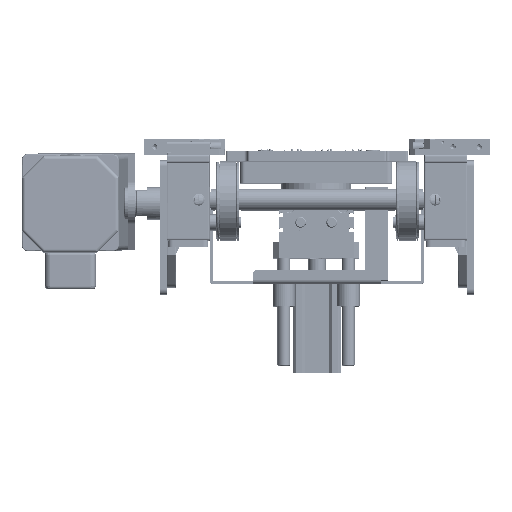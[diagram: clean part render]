
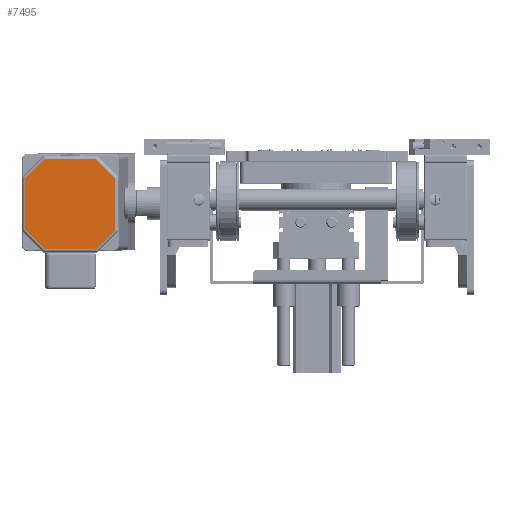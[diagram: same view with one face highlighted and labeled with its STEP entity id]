
A CAD part, top view. The second image highlights one B-rep face of the part: STEP entity #7495.
In plain terms, the highlighted planar face has unit normal (0, -0.012, 1) as drawn and (0, 0, 1) by its records, which use the part's own axes.
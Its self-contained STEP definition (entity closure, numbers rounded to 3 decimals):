
#5546=PLANE('',#65822);
#7495=ADVANCED_FACE('',(#12386),#5546,.T.);
#12386=FACE_OUTER_BOUND('',#15858,.T.);
#15858=EDGE_LOOP('',(#31460,#31461,#31462,#31463,#31464,#31465,#31466,#31467));
#20014=LINE('',#92113,#24473);
#20015=LINE('',#92116,#24474);
#20016=LINE('',#92118,#24475);
#20017=LINE('',#92120,#24476);
#20018=LINE('',#92122,#24477);
#20019=LINE('',#92124,#24478);
#20020=LINE('',#92126,#24479);
#20021=LINE('',#92128,#24480);
#24473=VECTOR('',#74243,1.);
#24474=VECTOR('',#74244,1.);
#24475=VECTOR('',#74245,1.);
#24476=VECTOR('',#74246,1.);
#24477=VECTOR('',#74247,1.);
#24478=VECTOR('',#74248,1.);
#24479=VECTOR('',#74249,1.);
#24480=VECTOR('',#74250,1.);
#31460=ORIENTED_EDGE('',*,*,#53885,.T.);
#31461=ORIENTED_EDGE('',*,*,#53886,.T.);
#31462=ORIENTED_EDGE('',*,*,#53887,.T.);
#31463=ORIENTED_EDGE('',*,*,#53888,.T.);
#31464=ORIENTED_EDGE('',*,*,#53889,.T.);
#31465=ORIENTED_EDGE('',*,*,#53890,.T.);
#31466=ORIENTED_EDGE('',*,*,#53891,.T.);
#31467=ORIENTED_EDGE('',*,*,#53892,.T.);
#47510=VERTEX_POINT('',#92114);
#47511=VERTEX_POINT('',#92115);
#47512=VERTEX_POINT('',#92117);
#47513=VERTEX_POINT('',#92119);
#47514=VERTEX_POINT('',#92121);
#47515=VERTEX_POINT('',#92123);
#47516=VERTEX_POINT('',#92125);
#47517=VERTEX_POINT('',#92127);
#53885=EDGE_CURVE('',#47510,#47511,#20014,.T.);
#53886=EDGE_CURVE('',#47511,#47512,#20015,.T.);
#53887=EDGE_CURVE('',#47512,#47513,#20016,.T.);
#53888=EDGE_CURVE('',#47513,#47514,#20017,.T.);
#53889=EDGE_CURVE('',#47514,#47515,#20018,.T.);
#53890=EDGE_CURVE('',#47515,#47516,#20019,.T.);
#53891=EDGE_CURVE('',#47516,#47517,#20020,.T.);
#53892=EDGE_CURVE('',#47517,#47510,#20021,.T.);
#65822=AXIS2_PLACEMENT_3D('',#92129,#74251,#74252);
#74243=DIRECTION('',(0.707,0.707,0.));
#74244=DIRECTION('',(0.,1.,0.));
#74245=DIRECTION('',(-0.707,0.707,0.));
#74246=DIRECTION('',(-1.,0.,0.));
#74247=DIRECTION('',(-0.707,-0.707,0.));
#74248=DIRECTION('',(0.,-1.,0.));
#74249=DIRECTION('',(0.707,-0.707,0.));
#74250=DIRECTION('',(1.,0.,0.));
#74251=DIRECTION('',(0.,0.,1.));
#74252=DIRECTION('',(-1.,0.,0.));
#92113=CARTESIAN_POINT('',(42.879,-22.879,140.));
#92114=CARTESIAN_POINT('',(23.757,-42.,140.));
#92115=CARTESIAN_POINT('',(42.,-23.757,140.));
#92116=CARTESIAN_POINT('',(42.,25.,140.));
#92117=CARTESIAN_POINT('',(42.,23.757,140.));
#92118=CARTESIAN_POINT('',(22.879,42.879,140.));
#92119=CARTESIAN_POINT('',(23.757,42.,140.));
#92120=CARTESIAN_POINT('',(-25.,42.,140.));
#92121=CARTESIAN_POINT('',(-23.757,42.,140.));
#92122=CARTESIAN_POINT('',(-42.879,22.879,140.));
#92123=CARTESIAN_POINT('',(-42.,23.757,140.));
#92124=CARTESIAN_POINT('',(-42.,-25.,140.));
#92125=CARTESIAN_POINT('',(-42.,-23.757,140.));
#92126=CARTESIAN_POINT('',(-22.879,-42.879,140.));
#92127=CARTESIAN_POINT('',(-23.757,-42.,140.));
#92128=CARTESIAN_POINT('',(25.,-42.,140.));
#92129=CARTESIAN_POINT('',(0.,0.,140.));
